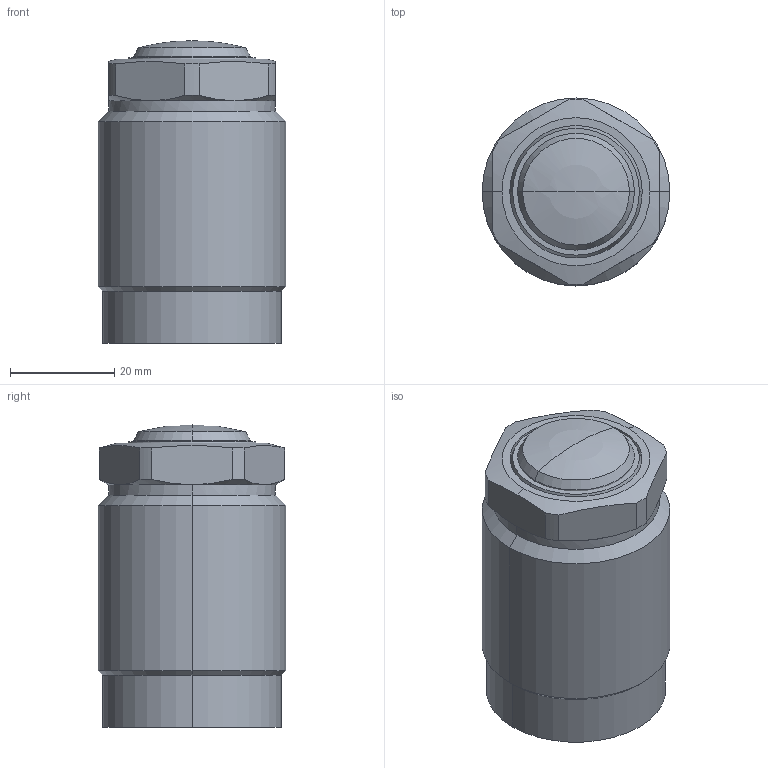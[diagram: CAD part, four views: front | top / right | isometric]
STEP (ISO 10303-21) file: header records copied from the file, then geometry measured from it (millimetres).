
FILE_DESCRIPTION((' '),'2;1');
FILE_NAME( 'TGP36-RM.x_t.stp', '2025-02-10T16:03:55', (' '), ('--- Datakit www.datakit.com---'), ' Datakit CrossCadWare V2024.1 Dec 21 2023', 'Mastercam 2025', ' ');
FILE_SCHEMA(('AUTOMOTIVE_DESIGN { 1 0 10303 214 1 1 1 1 }'));
Length unit declared in the file: millimetre
Products named in the file (1): TGP36-RM
Bounding box: 36 x 36 x 58 mm (x, y, z)
Volume: 59158.4 mm3; surface area: 10632 mm2
Topology: 2 solids, 2 shells, 61 faces, 155 edges, 101 vertices
Faces by surface type: cylinder 26, plane 15, cone 14, torus 4, sphere 2
Entity records: 1966 total; most frequent: CARTESIAN_POINT 452, DIRECTION 330, ORIENTED_EDGE 302, EDGE_CURVE 151, AXIS2_PLACEMENT_3D 139, VERTEX_POINT 101, CIRCLE 77, EDGE_LOOP 68
